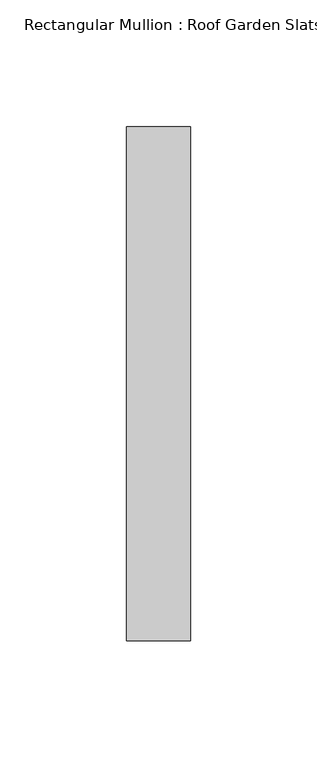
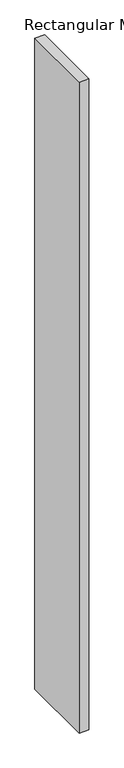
"""IFC4 building model written with IfcOpenShell, lengths in millimetres: member geometry, Rectangular Mullion : Roof Garden Slats."""

from ifc_helpers import new_model, si_unit, frame, origin, place, context, project, spatial, polyline, outline, extrude, source, transform, mapped, element, save


def rectangular_mullion_roof_garden_slats_f6650b7d(model_context):
    return source(origin(), model_context, "Body", "SweptSolid", [
        extrude(outline(polyline([(12.7, 139.7), (12.7, -63.5), (-12.7, -63.5), (-12.7, 139.7), (12.7, 139.7)])), frame((0.0, 0.0, -1820.8909541), z_axis=(0.0, 0.0, 1.0), x_axis=(1.0, 0.0, 0.0)), (0.0, 0.0, 1.0), 1820.8909541),
    ])


if __name__ == "__main__":
    model = new_model("IFC4")
    model_context = context("Model", 3, world=origin())
    ifc_project = project(units=[si_unit("LENGTHUNIT", "METRE", prefix="MILLI")], contexts=[model_context])
    site = spatial("IfcSite", under=ifc_project)
    building = spatial("IfcBuilding", under=site)
    placement = place(None, origin())
    rectangular_mullion_roof_garden_slats_shape = rectangular_mullion_roof_garden_slats_f6650b7d(model_context)
    element("IfcMember", 1, ObjectType="Rectangular Mullion : Roof Garden Slats", at=placement, inside=building, context=model_context, shape_type="MappedRepresentation", body=[
        mapped(rectangular_mullion_roof_garden_slats_shape, transform((0.0, 0.0, 0.0), x_axis=(1.0, 0.0, 0.0), y_axis=(0.0, 1.0, 0.0), z_axis=(0.0, 0.0, 1.0))),
    ])
    save(model, "model.ifc")
